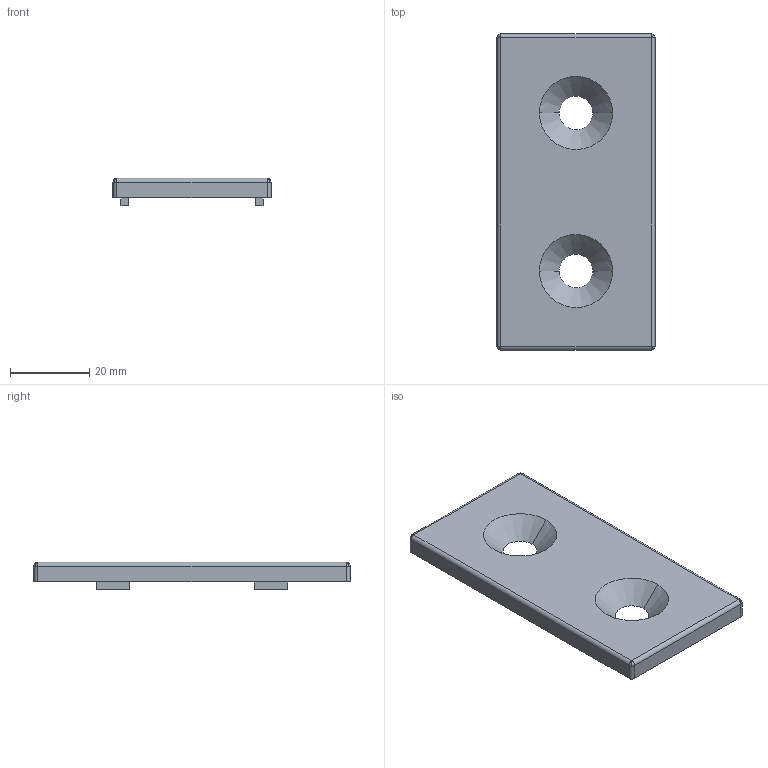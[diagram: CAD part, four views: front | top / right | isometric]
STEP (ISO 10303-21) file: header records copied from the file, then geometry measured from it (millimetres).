
FILE_DESCRIPTION (( 'STEP AP203' ), '1' );
FILE_NAME ('DEC4080A.STEP', '2022-06-24T03:10:39', ( '' ), ( '' ), 'SwSTEP 2.0', 'SolidWorks 2017', '' );
FILE_SCHEMA (( 'CONFIG_CONTROL_DESIGN' ));
Length unit declared in the file: millimetre
Products named in the file (1): DEC4080A
Bounding box: 40 x 80 x 7 mm (x, y, z)
Volume: 7813 mm3; surface area: 8360.2 mm2
Topology: 1 solids, 1 shells, 181 faces, 483 edges, 310 vertices
Faces by surface type: plane 110, bspline 54, cylinder 9, cone 8
Entity records: 7189 total; most frequent: CARTESIAN_POINT 3237, ORIENTED_EDGE 950, DIRECTION 524, EDGE_CURVE 475, VERTEX_POINT 310, LINE 252, VECTOR 252, B_SPLINE_CURVE_WITH_KNOTS 212
